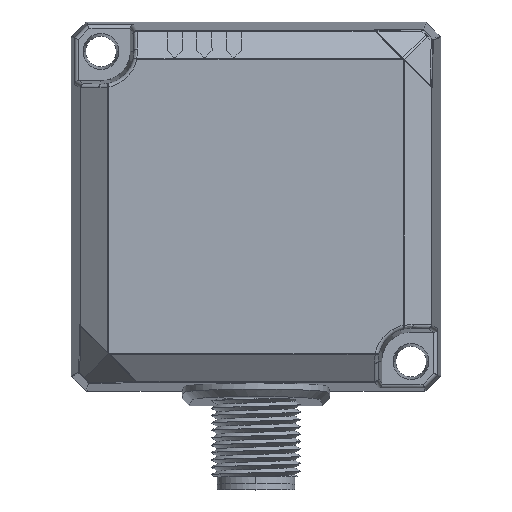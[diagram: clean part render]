
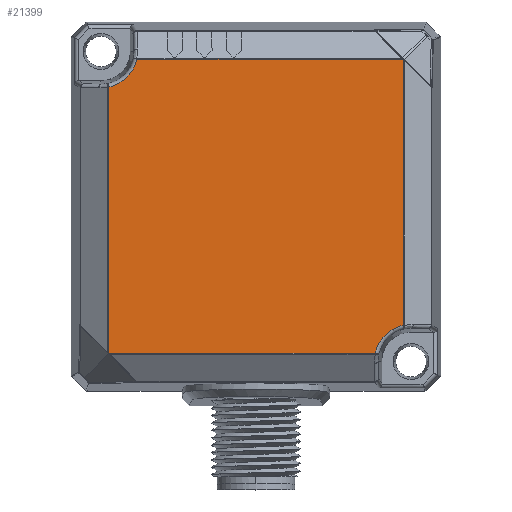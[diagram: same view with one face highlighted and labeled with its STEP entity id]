
A CAD part, top view. The second image highlights one B-rep face of the part: STEP entity #21399.
In plain terms, the highlighted planar face has unit normal (0, 0, 1).
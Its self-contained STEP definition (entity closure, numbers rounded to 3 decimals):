
#17361=CARTESIAN_POINT('',(-16.129,19.93,
30.));
#17507=DIRECTION('',(-1.,0.,0.));
#17508=VECTOR('',#17507,35.93);
#17509=CARTESIAN_POINT('',(19.801,19.93,30.));
#17510=LINE('',#17509,#17508);
#17521=DIRECTION('',(-0.707,0.707,0.));
#17522=VECTOR('',#17521,0.182);
#17523=CARTESIAN_POINT('',(-19.801,-19.93,
30.));
#17524=LINE('',#17523,#17522);
#17528=CARTESIAN_POINT('',(-21.,21.,30.));
#17529=DIRECTION('',(0.,0.,1.));
#17530=DIRECTION('',(0.215,-0.977,0.));
#17531=AXIS2_PLACEMENT_3D('',#17528,#17529,#17530);
#17536=DIRECTION('',(0.707,-0.707,0.));
#17537=VECTOR('',#17536,0.182);
#17538=CARTESIAN_POINT('',(19.801,19.93,30.));
#17539=LINE('',#17538,#17537);
#17543=CARTESIAN_POINT('',(21.,-21.,30.));
#17544=DIRECTION('',(0.,0.,1.));
#17545=DIRECTION('',(-0.215,0.977,0.));
#17546=AXIS2_PLACEMENT_3D('',#17543,#17544,#17545);
#17568=DIRECTION('',(0.,-1.,0.));
#17569=VECTOR('',#17568,35.93);
#17570=CARTESIAN_POINT('',(-19.93,16.129,
30.));
#17571=LINE('',#17570,#17569);
#17610=DIRECTION('',(0.,1.,0.));
#17611=VECTOR('',#17610,35.93);
#17612=CARTESIAN_POINT('',(19.93,-16.129,
30.));
#17613=LINE('',#17612,#17611);
#17840=DIRECTION('',(1.,0.,0.));
#17841=VECTOR('',#17840,35.93);
#17842=CARTESIAN_POINT('',(-19.801,-19.93,
30.));
#17843=LINE('',#17842,#17841);
#18102=CARTESIAN_POINT('',(19.801,19.93,30.));
#18103=VERTEX_POINT('',#18102);
#18104=CARTESIAN_POINT('',(19.93,19.801,30.));
#18105=VERTEX_POINT('',#18104);
#18129=CARTESIAN_POINT('',(-19.801,-19.93,30.));
#18130=VERTEX_POINT('',#18129);
#18131=CARTESIAN_POINT('',(-19.93,-19.801,30.));
#18132=VERTEX_POINT('',#18131);
#18143=VERTEX_POINT('',#17361);
#18144=CARTESIAN_POINT('',(-19.93,16.129,30.));
#18145=VERTEX_POINT('',#18144);
#18154=CARTESIAN_POINT('',(19.93,-16.129,
30.));
#18155=VERTEX_POINT('',#18154);
#18156=CARTESIAN_POINT('',(16.129,-19.93,30.));
#18157=VERTEX_POINT('',#18156);
#21380=CARTESIAN_POINT('',(0.,0.,30.));
#21381=DIRECTION('',(0.,0.,1.));
#21382=DIRECTION('',(1.,0.,0.));
#21383=AXIS2_PLACEMENT_3D('',#21380,#21381,#21382);
#21384=PLANE('',#21383);
#21385=ORIENTED_EDGE('',*,*,#20754,.T.);
#21387=ORIENTED_EDGE('',*,*,#21386,.F.);
#21388=ORIENTED_EDGE('',*,*,#21184,.T.);
#21389=ORIENTED_EDGE('',*,*,#21372,.F.);
#21390=ORIENTED_EDGE('',*,*,#20154,.T.);
#21392=ORIENTED_EDGE('',*,*,#21391,.F.);
#21394=ORIENTED_EDGE('',*,*,#21393,.T.);
#21396=ORIENTED_EDGE('',*,*,#21395,.F.);
#21397=EDGE_LOOP('',(#21385,#21387,#21388,#21389,#21390,#21392,#21394,#21396));
#21398=FACE_OUTER_BOUND('',#21397,.F.);
#17532=CIRCLE('',#17531,4.987);
#17547=CIRCLE('',#17546,4.987);
#20154=EDGE_CURVE('',#18103,#18105,#17539,.T.);
#20754=EDGE_CURVE('',#18130,#18132,#17524,.T.);
#21184=EDGE_CURVE('',#18145,#18143,#17532,.T.);
#21372=EDGE_CURVE('',#18103,#18143,#17510,.T.);
#21386=EDGE_CURVE('',#18145,#18132,#17571,.T.);
#21391=EDGE_CURVE('',#18155,#18105,#17613,.T.);
#21393=EDGE_CURVE('',#18155,#18157,#17547,.T.);
#21395=EDGE_CURVE('',#18130,#18157,#17843,.T.);
#21399=ADVANCED_FACE('',(#21398),#21384,.T.);
